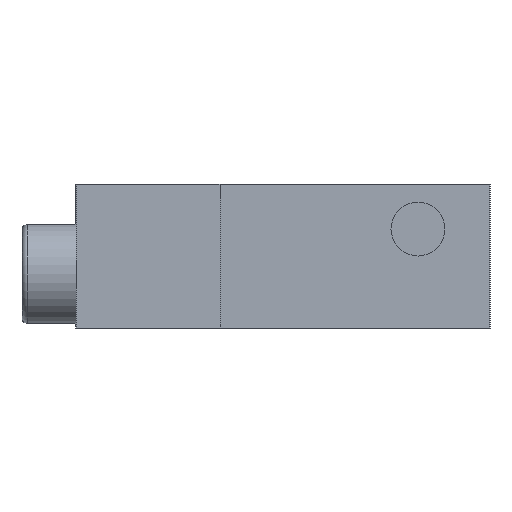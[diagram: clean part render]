
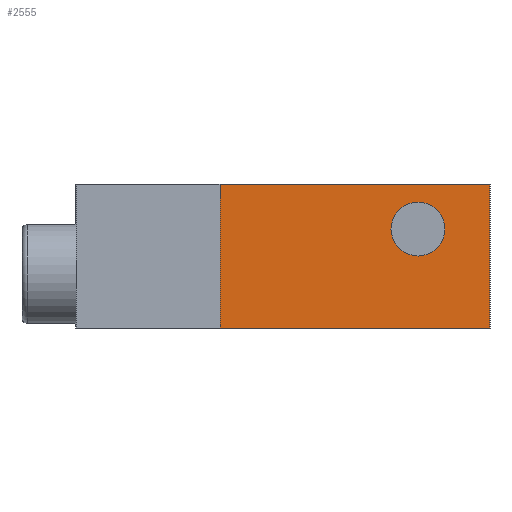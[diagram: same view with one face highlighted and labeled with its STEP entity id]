
A CAD part, left-side view. The second image highlights one B-rep face of the part: STEP entity #2555.
In plain terms, the highlighted planar face has unit normal (-1, 0, 0).
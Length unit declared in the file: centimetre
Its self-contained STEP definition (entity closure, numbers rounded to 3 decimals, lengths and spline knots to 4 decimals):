
#885=VECTOR('',#3037,1.);
#901=VECTOR('',#3059,1.);
#903=VECTOR('',#3062,1.);
#904=VECTOR('',#3063,1.);
#999=LINE('',#3572,#885);
#1015=LINE('',#3605,#901);
#1017=LINE('',#3609,#903);
#1018=LINE('',#3610,#904);
#1094=PLANE('',#2714);
#1183=VERTEX_POINT('',#3528);
#1200=VERTEX_POINT('',#3571);
#1201=VERTEX_POINT('',#3573);
#1211=VERTEX_POINT('',#3604);
#1212=VERTEX_POINT('',#3606);
#1335=CIRCLE('',#2685,0.15);
#1464=EDGE_CURVE('',#1183,#1183,#1335,.T.);
#1481=EDGE_CURVE('',#1200,#1201,#999,.T.);
#1498=EDGE_CURVE('',#1212,#1211,#1015,.T.);
#1500=EDGE_CURVE('',#1211,#1201,#1017,.T.);
#1501=EDGE_CURVE('',#1212,#1200,#1018,.T.);
#1816=ORIENTED_EDGE('',*,*,#1464,.T.);
#1817=ORIENTED_EDGE('',*,*,#1500,.T.);
#1818=ORIENTED_EDGE('',*,*,#1481,.F.);
#1819=ORIENTED_EDGE('',*,*,#1501,.F.);
#1820=ORIENTED_EDGE('',*,*,#1498,.T.);
#2210=EDGE_LOOP('',(#1816));
#2211=EDGE_LOOP('',(#1817,#1818,#1819,#1820));
#2399=FACE_BOUND('',#2210,.T.);
#2400=FACE_BOUND('',#2211,.T.);
#2555=ADVANCED_FACE('',(#2399,#2400),#1094,.T.);
#2685=AXIS2_PLACEMENT_3D('',#3527,#2989,#2990);
#2714=AXIS2_PLACEMENT_3D('',#3608,#3061,$);
#2989=DIRECTION('',(1.,0.,0.));
#2990=DIRECTION('',(0.,0.,0.15));
#3037=DIRECTION('',(0.,0.,1.));
#3059=DIRECTION('',(0.,0.,1.));
#3061=DIRECTION('',(-1.,0.,0.));
#3062=DIRECTION('',(0.,1.,0.));
#3063=DIRECTION('',(0.,1.,0.));
#3527=CARTESIAN_POINT('',(0.,0.4,0.15));
#3528=CARTESIAN_POINT('',(0.,0.4,0.3));
#3571=CARTESIAN_POINT('',(0.,1.5,-0.4));
#3572=CARTESIAN_POINT('',(0.,1.5,-0.4));
#3573=CARTESIAN_POINT('',(0.,1.5,0.4));
#3604=CARTESIAN_POINT('',(0.,0.,0.4));
#3605=CARTESIAN_POINT('',(0.,0.,-0.4));
#3606=CARTESIAN_POINT('',(0.,0.,-0.4));
#3608=CARTESIAN_POINT('',(0.,0.75,-0.4));
#3609=CARTESIAN_POINT('',(0.,0.,0.4));
#3610=CARTESIAN_POINT('',(0.,0.,-0.4));
